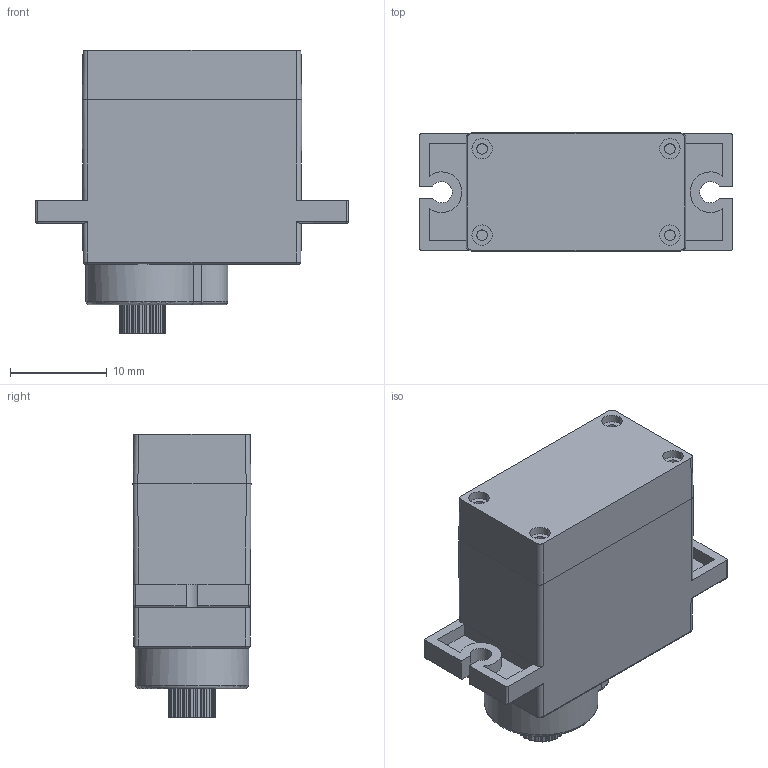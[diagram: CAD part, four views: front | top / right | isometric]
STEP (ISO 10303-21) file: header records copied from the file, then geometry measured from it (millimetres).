
FILE_DESCRIPTION((''),'2;1');
FILE_NAME('P0090','2026-04-27T13:50:23',('KP-JG01'),(''),'CREO PARAMETRIC BY PTC INC, 2022073','CREO PARAMETRIC BY PTC INC, 2022073','');
FILE_SCHEMA(('CONFIG_CONTROL_DESIGN'));
Length unit declared in the file: millimetre
Products named in the file (1): P0090
Bounding box: 32.35 x 12.2 x 29.3 mm (x, y, z)
Volume: 6693.2 mm3; surface area: 2981.5 mm2
Topology: 1 solids, 1 shells, 249 faces, 672 edges, 436 vertices
Faces by surface type: cylinder 184, plane 55, sphere 4, bspline 4, torus 2
Entity records: 8238 total; most frequent: CARTESIAN_POINT 1709, DIRECTION 1464, ORIENTED_EDGE 1344, EDGE_CURVE 672, AXIS2_PLACEMENT_3D 583, VERTEX_POINT 436, CIRCLE 338, VECTOR 298
